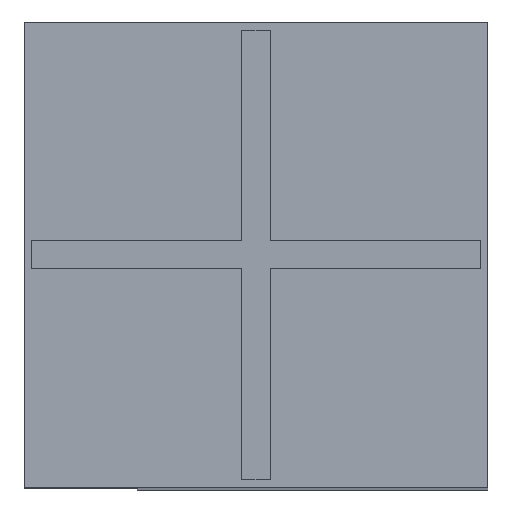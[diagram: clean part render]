
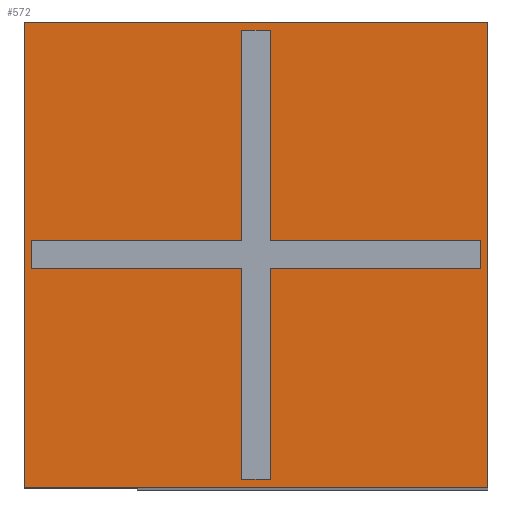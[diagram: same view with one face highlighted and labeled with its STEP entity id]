
A CAD part, top view. The second image highlights one B-rep face of the part: STEP entity #572.
In plain terms, the highlighted planar face has unit normal (0, 0, 1).
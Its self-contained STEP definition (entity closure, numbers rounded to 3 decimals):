
#28=LINE('',#798,#100);
#34=LINE('',#810,#106);
#38=LINE('',#819,#110);
#39=LINE('',#822,#111);
#42=LINE('',#827,#114);
#45=LINE('',#833,#117);
#54=LINE('',#849,#126);
#55=LINE('',#852,#127);
#57=LINE('',#856,#129);
#59=LINE('',#860,#131);
#61=LINE('',#863,#133);
#62=LINE('',#865,#134);
#64=LINE('',#877,#136);
#71=LINE('',#891,#143);
#72=LINE('',#893,#144);
#73=LINE('',#894,#145);
#100=VECTOR('',#651,10.);
#106=VECTOR('',#659,10.);
#110=VECTOR('',#665,10.);
#111=VECTOR('',#668,10.);
#114=VECTOR('',#673,10.);
#117=VECTOR('',#678,10.);
#126=VECTOR('',#691,10.);
#127=VECTOR('',#694,10.);
#129=VECTOR('',#698,10.);
#131=VECTOR('',#702,10.);
#133=VECTOR('',#706,10.);
#134=VECTOR('',#709,10.);
#136=VECTOR('',#721,10.);
#143=VECTOR('',#730,10.);
#144=VECTOR('',#731,10.);
#145=VECTOR('',#732,10.);
#179=PLANE('',#609);
#190=FACE_BOUND('',#251,.T.);
#217=FACE_OUTER_BOUND('',#250,.T.);
#250=EDGE_LOOP('',(#489,#490,#491,#492));
#251=EDGE_LOOP('',(#493,#494,#495,#496,#497,#498,#499,#500,#501,#502,#503,
#504));
#279=VERTEX_POINT('',#795);
#280=VERTEX_POINT('',#797);
#282=VERTEX_POINT('',#803);
#285=VERTEX_POINT('',#808);
#286=VERTEX_POINT('',#812);
#289=VERTEX_POINT('',#817);
#290=VERTEX_POINT('',#821);
#293=VERTEX_POINT('',#831);
#298=VERTEX_POINT('',#847);
#299=VERTEX_POINT('',#851);
#300=VERTEX_POINT('',#855);
#301=VERTEX_POINT('',#859);
#305=VERTEX_POINT('',#874);
#306=VERTEX_POINT('',#876);
#312=VERTEX_POINT('',#890);
#313=VERTEX_POINT('',#892);
#335=EDGE_CURVE('',#280,#279,#28,.T.);
#341=EDGE_CURVE('',#282,#285,#34,.T.);
#345=EDGE_CURVE('',#286,#289,#38,.T.);
#346=EDGE_CURVE('',#285,#290,#39,.T.);
#349=EDGE_CURVE('',#289,#280,#42,.T.);
#352=EDGE_CURVE('',#290,#293,#45,.T.);
#361=EDGE_CURVE('',#293,#298,#54,.T.);
#362=EDGE_CURVE('',#299,#286,#55,.T.);
#364=EDGE_CURVE('',#300,#282,#57,.T.);
#366=EDGE_CURVE('',#301,#300,#59,.T.);
#368=EDGE_CURVE('',#279,#301,#61,.T.);
#369=EDGE_CURVE('',#298,#299,#62,.T.);
#373=EDGE_CURVE('',#305,#306,#64,.T.);
#380=EDGE_CURVE('',#312,#305,#71,.T.);
#381=EDGE_CURVE('',#313,#312,#72,.T.);
#382=EDGE_CURVE('',#306,#313,#73,.T.);
#489=ORIENTED_EDGE('',*,*,#380,.F.);
#490=ORIENTED_EDGE('',*,*,#381,.F.);
#491=ORIENTED_EDGE('',*,*,#382,.F.);
#492=ORIENTED_EDGE('',*,*,#373,.F.);
#493=ORIENTED_EDGE('',*,*,#345,.T.);
#494=ORIENTED_EDGE('',*,*,#349,.T.);
#495=ORIENTED_EDGE('',*,*,#335,.T.);
#496=ORIENTED_EDGE('',*,*,#368,.T.);
#497=ORIENTED_EDGE('',*,*,#366,.T.);
#498=ORIENTED_EDGE('',*,*,#364,.T.);
#499=ORIENTED_EDGE('',*,*,#341,.T.);
#500=ORIENTED_EDGE('',*,*,#346,.T.);
#501=ORIENTED_EDGE('',*,*,#352,.T.);
#502=ORIENTED_EDGE('',*,*,#361,.T.);
#503=ORIENTED_EDGE('',*,*,#369,.T.);
#504=ORIENTED_EDGE('',*,*,#362,.T.);
#572=ADVANCED_FACE('',(#217,#190),#179,.T.);
#609=AXIS2_PLACEMENT_3D('',#889,#728,#729);
#651=DIRECTION('',(1.,0.,0.));
#659=DIRECTION('',(1.,0.,0.));
#665=DIRECTION('',(-1.,0.,0.));
#668=DIRECTION('',(0.,-1.,0.));
#673=DIRECTION('',(0.,1.,0.));
#678=DIRECTION('',(-1.,0.,0.));
#691=DIRECTION('',(0.,-1.,0.));
#694=DIRECTION('',(0.,1.,0.));
#698=DIRECTION('',(0.,-1.,0.));
#702=DIRECTION('',(1.,0.,0.));
#706=DIRECTION('',(0.,1.,0.));
#709=DIRECTION('',(-1.,0.,0.));
#721=DIRECTION('',(-1.,0.,0.));
#728=DIRECTION('center_axis',(0.,0.,1.));
#729=DIRECTION('ref_axis',(1.,0.,0.));
#730=DIRECTION('',(0.,-1.,0.));
#731=DIRECTION('',(1.,0.,0.));
#732=DIRECTION('',(0.,1.,0.));
#795=CARTESIAN_POINT('',(-4.385,0.25,0.));
#797=CARTESIAN_POINT('',(-8.135,0.25,0.));
#798=CARTESIAN_POINT('',(-8.203,0.25,0.));
#803=CARTESIAN_POINT('',(-3.885,0.25,0.));
#808=CARTESIAN_POINT('',(-0.135,0.25,0.));
#810=CARTESIAN_POINT('',(-8.203,0.25,0.));
#812=CARTESIAN_POINT('',(-4.385,-0.25,0.));
#817=CARTESIAN_POINT('',(-8.135,-0.25,0.));
#819=CARTESIAN_POINT('',(-4.203,-0.25,0.));
#821=CARTESIAN_POINT('',(-0.135,-0.25,0.));
#822=CARTESIAN_POINT('',(-0.135,0.125,0.));
#827=CARTESIAN_POINT('',(-8.135,-0.125,0.));
#831=CARTESIAN_POINT('',(-3.885,-0.25,0.));
#833=CARTESIAN_POINT('',(-4.203,-0.25,0.));
#847=CARTESIAN_POINT('',(-3.885,-4.,0.));
#849=CARTESIAN_POINT('',(-3.885,2.,0.));
#851=CARTESIAN_POINT('',(-4.385,-4.,0.));
#852=CARTESIAN_POINT('',(-4.385,-2.,0.));
#855=CARTESIAN_POINT('',(-3.885,4.,0.));
#856=CARTESIAN_POINT('',(-3.885,2.,0.));
#859=CARTESIAN_POINT('',(-4.385,4.,0.));
#860=CARTESIAN_POINT('',(-6.328,4.,0.));
#863=CARTESIAN_POINT('',(-4.385,-2.,0.));
#865=CARTESIAN_POINT('',(-6.078,-4.,0.));
#874=CARTESIAN_POINT('',(0.,-4.15,0.));
#876=CARTESIAN_POINT('',(-8.27,-4.15,0.));
#877=CARTESIAN_POINT('',(-8.27,-4.15,0.));
#889=CARTESIAN_POINT('Origin',(-8.27,0.,0.));
#890=CARTESIAN_POINT('',(0.,4.15,0.));
#891=CARTESIAN_POINT('',(0.,0.,0.));
#892=CARTESIAN_POINT('',(-8.27,4.15,0.));
#893=CARTESIAN_POINT('',(-8.27,4.15,0.));
#894=CARTESIAN_POINT('',(-8.27,0.,0.));
